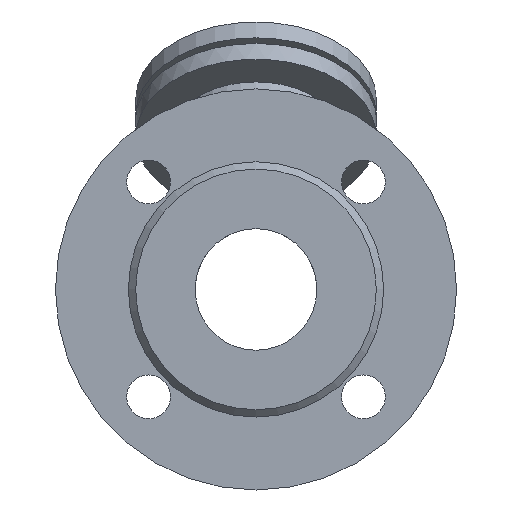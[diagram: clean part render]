
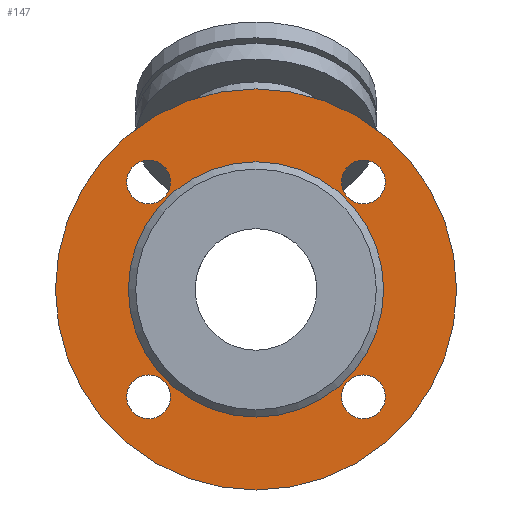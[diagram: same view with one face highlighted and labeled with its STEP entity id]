
A CAD part, front view. The second image highlights one B-rep face of the part: STEP entity #147.
In plain terms, the highlighted planar face has unit normal (0, -1, 0).
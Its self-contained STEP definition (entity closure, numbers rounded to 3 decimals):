
#147=ADVANCED_FACE('',(#473,#475,#477,#479,#481,#483),#485,.T.);
#473=FACE_BOUND('',#474,.T.);
#474=EDGE_LOOP('',(#768));
#475=FACE_BOUND('',#476,.T.);
#476=EDGE_LOOP('',(#769));
#477=FACE_BOUND('',#478,.T.);
#478=EDGE_LOOP('',(#770));
#479=FACE_BOUND('',#480,.T.);
#480=EDGE_LOOP('',(#771));
#481=FACE_BOUND('',#482,.T.);
#482=EDGE_LOOP('',(#772));
#483=FACE_BOUND('',#484,.T.);
#484=EDGE_LOOP('',(#773));
#485=PLANE('',#486);
#486=AXIS2_PLACEMENT_3D('',#487,#488,#489);
#487=CARTESIAN_POINT('',(0.,-97.,0.));
#488=DIRECTION('',(0.,-1.,0.));
#489=DIRECTION('',(0.,0.,1.));
#768=ORIENTED_EDGE('',*,*,#870,.F.);
#769=ORIENTED_EDGE('',*,*,#871,.T.);
#770=ORIENTED_EDGE('',*,*,#872,.T.);
#771=ORIENTED_EDGE('',*,*,#873,.T.);
#772=ORIENTED_EDGE('',*,*,#864,.T.);
#773=ORIENTED_EDGE('',*,*,#874,.T.);
#864=EDGE_CURVE('',#942,#942,#943,.T.);
#870=EDGE_CURVE('',#954,#954,#955,.T.);
#871=EDGE_CURVE('',#956,#956,#957,.F.);
#872=EDGE_CURVE('',#958,#958,#959,.F.);
#873=EDGE_CURVE('',#960,#960,#961,.F.);
#874=EDGE_CURVE('',#962,#962,#963,.F.);
#942=VERTEX_POINT('',#1265);
#943=CIRCLE('',#1266,52.5);
#954=VERTEX_POINT('',#1295);
#955=CIRCLE('',#1296,82.5);
#956=VERTEX_POINT('',#1300);
#957=CIRCLE('',#1301,9.);
#958=VERTEX_POINT('',#1305);
#959=CIRCLE('',#1306,9.);
#960=VERTEX_POINT('',#1310);
#961=CIRCLE('',#1311,9.);
#962=VERTEX_POINT('',#1315);
#963=CIRCLE('',#1316,9.);
#1265=CARTESIAN_POINT('',(0.,-97.,52.5));
#1266=AXIS2_PLACEMENT_3D('',#1267,#1268,#1269);
#1267=CARTESIAN_POINT('',(0.,-97.,0.));
#1268=DIRECTION('',(0.,1.,0.));
#1269=DIRECTION('',(0.,0.,1.));
#1295=CARTESIAN_POINT('',(0.,-97.,82.5));
#1296=AXIS2_PLACEMENT_3D('',#1297,#1298,#1299);
#1297=CARTESIAN_POINT('',(0.,-97.,0.));
#1298=DIRECTION('',(0.,1.,0.));
#1299=DIRECTION('',(0.,0.,1.));
#1300=CARTESIAN_POINT('',(44.194,-97.,35.194));
#1301=AXIS2_PLACEMENT_3D('',#1302,#1303,#1304);
#1302=CARTESIAN_POINT('',(44.194,-97.,44.194));
#1303=DIRECTION('',(0.,-1.,0.));
#1304=DIRECTION('',(0.,0.,-1.));
#1305=CARTESIAN_POINT('',(35.194,-97.,-44.194));
#1306=AXIS2_PLACEMENT_3D('',#1307,#1308,#1309);
#1307=CARTESIAN_POINT('',(44.194,-97.,-44.194));
#1308=DIRECTION('',(0.,-1.,0.));
#1309=DIRECTION('',(-1.,0.,0.));
#1310=CARTESIAN_POINT('',(-44.194,-97.,-35.194));
#1311=AXIS2_PLACEMENT_3D('',#1312,#1313,#1314);
#1312=CARTESIAN_POINT('',(-44.194,-97.,-44.194));
#1313=DIRECTION('',(0.,-1.,0.));
#1314=DIRECTION('',(0.,0.,1.));
#1315=CARTESIAN_POINT('',(-35.194,-97.,44.194));
#1316=AXIS2_PLACEMENT_3D('',#1317,#1318,#1319);
#1317=CARTESIAN_POINT('',(-44.194,-97.,44.194));
#1318=DIRECTION('',(0.,-1.,0.));
#1319=DIRECTION('',(1.,0.,0.));
